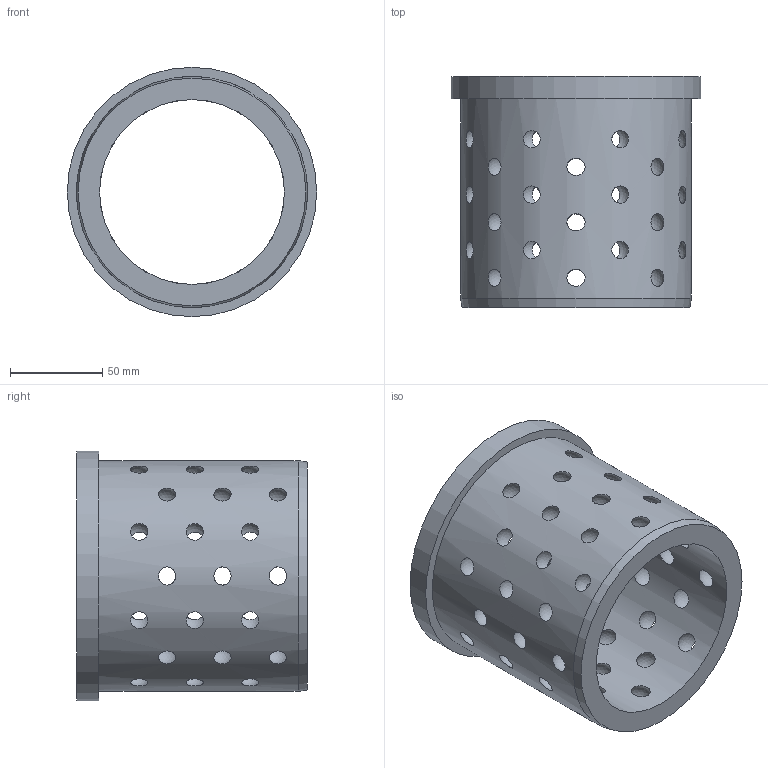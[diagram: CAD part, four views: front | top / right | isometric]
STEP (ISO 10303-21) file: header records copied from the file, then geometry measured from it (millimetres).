
FILE_DESCRIPTION( ( 'STEP AP203' ), '1' );
FILE_NAME( 'D:/Cuma/23 02 2009/D31 Serisi/D31_100125.step', '2002-12-31T23:04:17', ( ' ' ), ( ' ' ), 'XStep 1.0', ' ', ' ' );
FILE_SCHEMA( ( 'CONFIG_CONTROL_DESIGN' ) );
Length unit declared in the file: metre
Products named in the file (1): 1
Bounding box: 135 x 125 x 135 mm (x, y, z)
Volume: 475309.8 mm3; surface area: 123052.9 mm2
Topology: 1 solids, 1 shells, 56 faces, 220 edges, 161 vertices
Faces by surface type: sphere 48, plane 3, cylinder 3, torus 1, cone 1
Full cylindrical faces by diameter (mm): 100 x1, 125 x1, 135 x1
Entity records: 8313 total; most frequent: CARTESIAN_POINT 7021, EDGE_LOOP 208, ORIENTED_EDGE 208, FACE_BOUND 196, DIRECTION 130, EDGE_CURVE 104, VERTEX_POINT 104, B_SPLINE_CURVE_WITH_KNOTS 96
